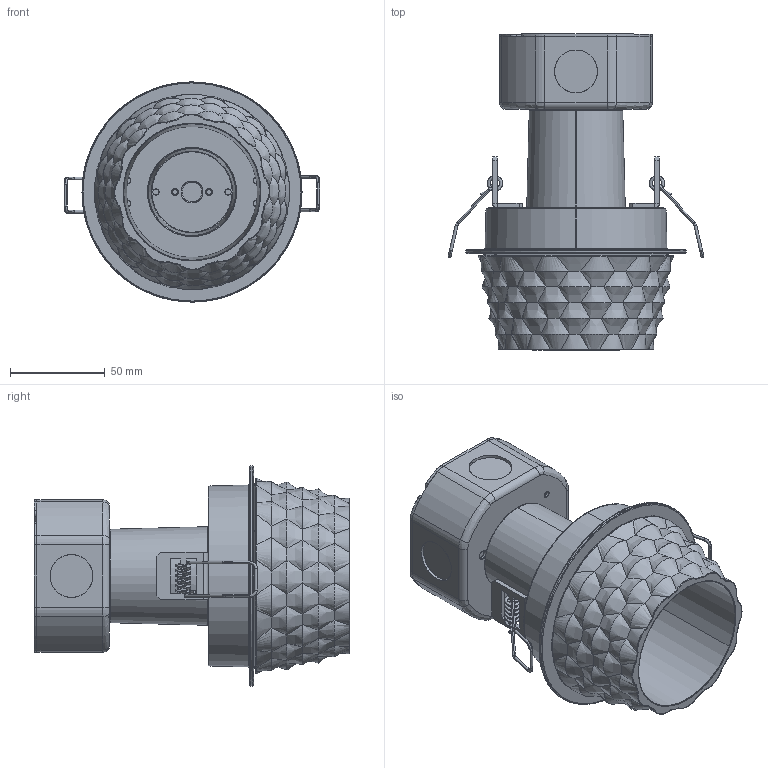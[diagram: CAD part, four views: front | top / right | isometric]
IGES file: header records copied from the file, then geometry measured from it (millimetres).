
Start section: SolidWorks IGES file using analytic representation for surfaces
Global section: file name: \\STORAGE\Tecnico Condiviso\1 FASCICOLI TECNICI\AXO DESIGN\AXO007-FEDORA\20150702-FEDORA ETL\FA\SW\UFFEDORA-PER 3D.IGS; native system: SolidWorks 2024; preprocessor: SolidWorks 2024; author: tecnico3; date: 240529.172451; units: millimetre
Bounding box: 134.67 x 166.5 x 116.08 mm (x, y, z)
Surface area: 144044.4 mm2 (no closed solid volume)
Topology: 0 solids, 0 shells, 640 faces, 7777 edges, 7779 vertices
Faces by surface type: bspline 446, revolution 194
